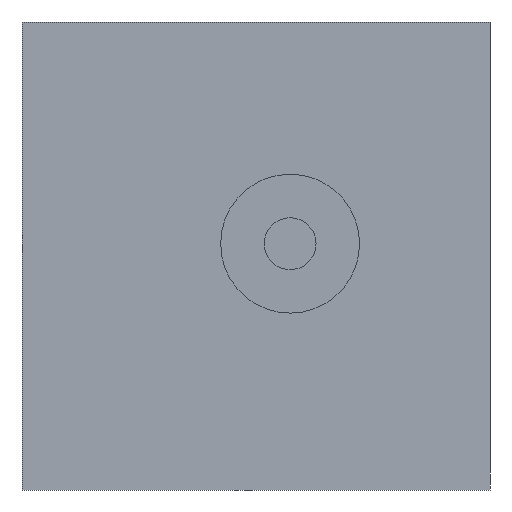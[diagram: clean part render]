
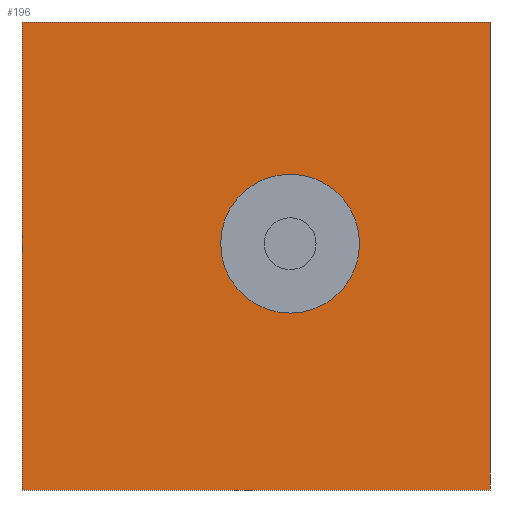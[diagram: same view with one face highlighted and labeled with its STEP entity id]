
A CAD part, left-side view. The second image highlights one B-rep face of the part: STEP entity #196.
In plain terms, the highlighted planar face has unit normal (-1, 0, 0).
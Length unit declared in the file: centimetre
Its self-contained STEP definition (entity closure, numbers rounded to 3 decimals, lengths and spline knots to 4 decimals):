
#1 = CARTESIAN_POINT ( 'NONE',  ( 0., 1000., 1000. ) ) ;
#9 = CARTESIAN_POINT ( 'NONE',  ( 0., 1000., 1000. ) ) ;
#12 = EDGE_CURVE ( 'NONE', #28, #386, #468, .T. ) ;
#27 = FACE_BOUND ( 'NONE', #36, .T. ) ;
#28 = VERTEX_POINT ( 'NONE', #9 ) ;
#31 = CIRCLE ( 'NONE', #89, 148.4627 ) ;
#33 = EDGE_CURVE ( 'NONE', #28, #175, #202, .T. ) ;
#35 = CARTESIAN_POINT ( 'NONE',  ( 0., 1000., 1000. ) ) ;
#36 = EDGE_LOOP ( 'NONE', ( #322, #110 ) ) ;
#46 = ORIENTED_EDGE ( 'NONE', *, *, #482, .F. ) ;
#51 = DIRECTION ( 'NONE',  ( 0., 0., 1. ) ) ;
#55 = CIRCLE ( 'NONE', #357, 148.4627 ) ;
#62 = LINE ( 'NONE', #419, #161 ) ;
#82 = DIRECTION ( 'NONE',  ( 0., -1., 0. ) ) ;
#85 = CARTESIAN_POINT ( 'NONE',  ( 0., 0., 1000. ) ) ;
#89 = AXIS2_PLACEMENT_3D ( 'NONE', #224, #137, #293 ) ;
#104 = CARTESIAN_POINT ( 'NONE',  ( 0., 1000., 1000. ) ) ;
#110 = ORIENTED_EDGE ( 'NONE', *, *, #405, .F. ) ;
#123 = AXIS2_PLACEMENT_3D ( 'NONE', #35, #520, #152 ) ;
#124 = VECTOR ( 'NONE', #178, 100. ) ;
#137 = DIRECTION ( 'NONE',  ( -1., 0., 0. ) ) ;
#152 = DIRECTION ( 'NONE',  ( 0., 0., -1. ) ) ;
#161 = VECTOR ( 'NONE', #172, 100. ) ;
#167 = DIRECTION ( 'NONE',  ( 0., 0., -1. ) ) ;
#172 = DIRECTION ( 'NONE',  ( 0., 0., -1. ) ) ;
#175 = VERTEX_POINT ( 'NONE', #265 ) ;
#178 = DIRECTION ( 'NONE',  ( 0., -1., 0. ) ) ;
#186 = VERTEX_POINT ( 'NONE', #431 ) ;
#192 = VECTOR ( 'NONE', #82, 100. ) ;
#196 = ADVANCED_FACE ( 'NONE', ( #27, #233 ), #398, .F. ) ;
#202 = LINE ( 'NONE', #1, #435 ) ;
#218 = EDGE_CURVE ( 'NONE', #453, #290, #55, .T. ) ;
#224 = CARTESIAN_POINT ( 'NONE',  ( 0., 427.063, 526.2962 ) ) ;
#233 = FACE_OUTER_BOUND ( 'NONE', #326, .T. ) ;
#253 = ORIENTED_EDGE ( 'NONE', *, *, #276, .T. ) ;
#265 = CARTESIAN_POINT ( 'NONE',  ( 0., 1000., 0. ) ) ;
#276 = EDGE_CURVE ( 'NONE', #175, #186, #364, .T. ) ;
#278 = DIRECTION ( 'NONE',  ( -1., 0., 0. ) ) ;
#290 = VERTEX_POINT ( 'NONE', #304 ) ;
#293 = DIRECTION ( 'NONE',  ( 0., 0., 1. ) ) ;
#304 = CARTESIAN_POINT ( 'NONE',  ( 0., 427.063, 377.8335 ) ) ;
#322 = ORIENTED_EDGE ( 'NONE', *, *, #218, .F. ) ;
#326 = EDGE_LOOP ( 'NONE', ( #253, #46, #512, #388 ) ) ;
#357 = AXIS2_PLACEMENT_3D ( 'NONE', #525, #278, #51 ) ;
#359 = CARTESIAN_POINT ( 'NONE',  ( 0., 427.063, 674.7588 ) ) ;
#364 = LINE ( 'NONE', #527, #124 ) ;
#386 = VERTEX_POINT ( 'NONE', #85 ) ;
#388 = ORIENTED_EDGE ( 'NONE', *, *, #33, .T. ) ;
#398 = PLANE ( 'NONE',  #123 ) ;
#405 = EDGE_CURVE ( 'NONE', #290, #453, #31, .T. ) ;
#419 = CARTESIAN_POINT ( 'NONE',  ( 0., 0., 1000. ) ) ;
#431 = CARTESIAN_POINT ( 'NONE',  ( 0., 0., 0. ) ) ;
#435 = VECTOR ( 'NONE', #167, 100. ) ;
#453 = VERTEX_POINT ( 'NONE', #359 ) ;
#468 = LINE ( 'NONE', #104, #192 ) ;
#482 = EDGE_CURVE ( 'NONE', #386, #186, #62, .T. ) ;
#512 = ORIENTED_EDGE ( 'NONE', *, *, #12, .F. ) ;
#520 = DIRECTION ( 'NONE',  ( 1., 0., 0. ) ) ;
#525 = CARTESIAN_POINT ( 'NONE',  ( 0., 427.063, 526.2962 ) ) ;
#527 = CARTESIAN_POINT ( 'NONE',  ( 0., 1000., 0. ) ) ;
